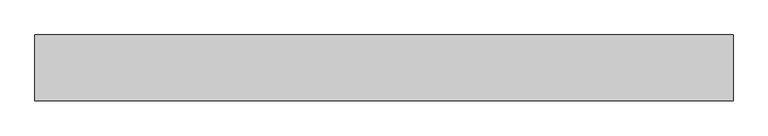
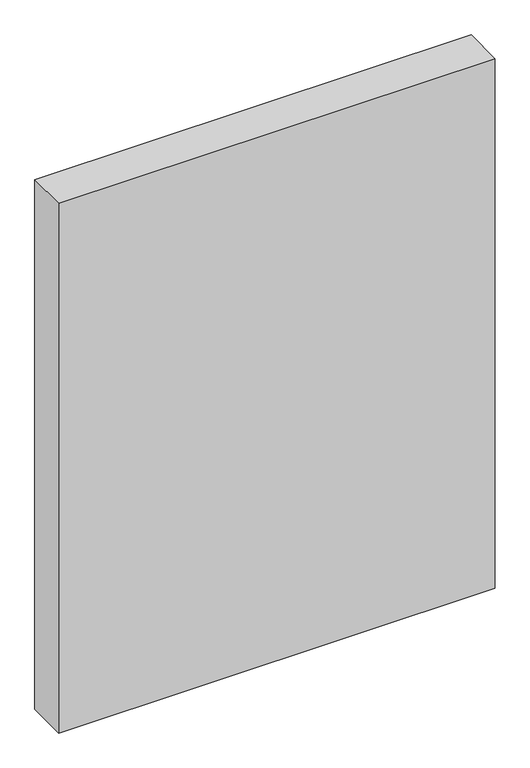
"""IFC4 building model written with IfcOpenShell, lengths in millimetres: proxy geometry, 900x900 Manway Cover Class D ST-02."""

from ifc_helpers import new_model, si_unit, frame, origin, place, context, project, spatial, polyline, outline, extrude, source, transform, mapped, element, save


def generic_models_fcdfde94(model_context):
    return source(origin(), model_context, "Body", "SweptSolid", [
        extrude(outline(polyline([(-530.0, 0.0), (-530.0, 100.0), (530.0, 100.0), (530.0, 0.0), (-530.0, 0.0)])), frame((0.0, 0.0, -680.0), z_axis=(0.0, 0.0, 1.0), x_axis=(1.0, 0.0, 0.0)), (0.0, 0.0, 1.0), 1360.0),
    ])


if __name__ == "__main__":
    model = new_model("IFC4")
    model_context = context("Model", 3, world=origin())
    ifc_project = project(units=[si_unit("LENGTHUNIT", "METRE", prefix="MILLI")], contexts=[model_context])
    site = spatial("IfcSite", under=ifc_project)
    building = spatial("IfcBuilding", under=site)
    placement = place(None, origin())
    generic_models_shape = generic_models_fcdfde94(model_context)
    element("IfcBuildingElementProxy", 1, Name="900x900 Manway Cover Class D ST-02", ObjectType="900x900 Manway Cover Class D ST-02", at=placement, inside=building, context=model_context, shape_type="MappedRepresentation", body=[
        mapped(generic_models_shape, transform((0.0, 0.0, 0.0), x_axis=(1.0, 0.0, 0.0), y_axis=(0.0, 1.0, 0.0), z_axis=(0.0, 0.0, 1.0))),
    ])
    save(model, "model.ifc")
